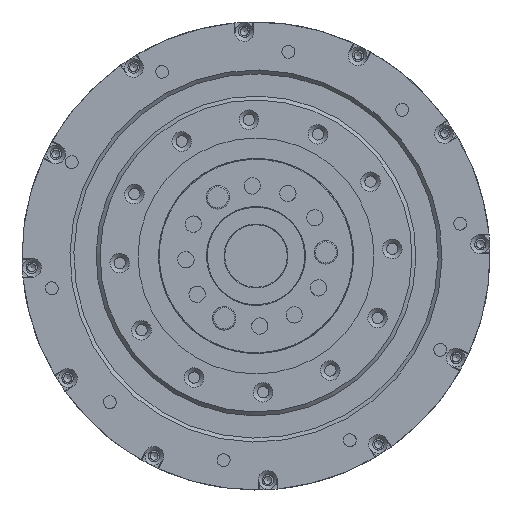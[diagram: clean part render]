
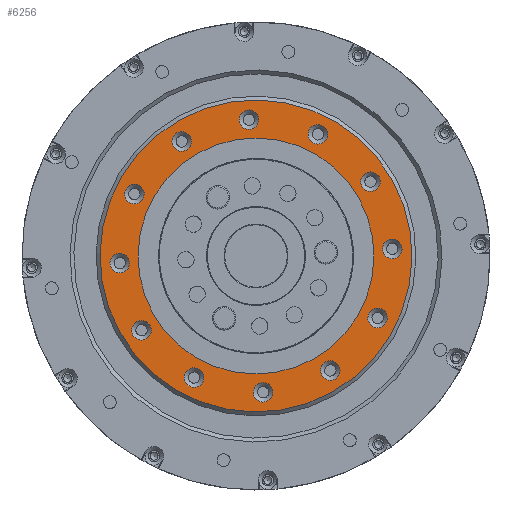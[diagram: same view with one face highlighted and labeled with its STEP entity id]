
A CAD part, left-side view. The second image highlights one B-rep face of the part: STEP entity #6256.
In plain terms, the highlighted planar face has unit normal (-1, 0, 0).
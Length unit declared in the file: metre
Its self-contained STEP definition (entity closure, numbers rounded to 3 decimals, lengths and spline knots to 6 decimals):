
#956=PLANE('',#6801);
#1255=ORIENTED_EDGE('',*,*,#2913,.F.);
#1256=ORIENTED_EDGE('',*,*,#2914,.F.);
#1257=ORIENTED_EDGE('',*,*,#2915,.F.);
#1258=ORIENTED_EDGE('',*,*,#2916,.F.);
#1259=ORIENTED_EDGE('',*,*,#2917,.F.);
#1260=ORIENTED_EDGE('',*,*,#2918,.F.);
#1261=ORIENTED_EDGE('',*,*,#2919,.F.);
#1262=ORIENTED_EDGE('',*,*,#2920,.F.);
#1263=ORIENTED_EDGE('',*,*,#2921,.F.);
#1264=ORIENTED_EDGE('',*,*,#2922,.F.);
#1265=ORIENTED_EDGE('',*,*,#2923,.F.);
#1266=ORIENTED_EDGE('',*,*,#2924,.F.);
#1267=ORIENTED_EDGE('',*,*,#2912,.F.);
#1268=ORIENTED_EDGE('',*,*,#2925,.F.);
#2912=EDGE_CURVE('',#3759,#3759,#4376,.T.);
#2913=EDGE_CURVE('',#3760,#3760,#4377,.T.);
#2914=EDGE_CURVE('',#3761,#3761,#4378,.T.);
#2915=EDGE_CURVE('',#3762,#3762,#4379,.T.);
#2916=EDGE_CURVE('',#3763,#3763,#4380,.T.);
#2917=EDGE_CURVE('',#3764,#3764,#4381,.T.);
#2918=EDGE_CURVE('',#3765,#3765,#4382,.T.);
#2919=EDGE_CURVE('',#3766,#3766,#4383,.T.);
#2920=EDGE_CURVE('',#3767,#3767,#4384,.T.);
#2921=EDGE_CURVE('',#3768,#3768,#4385,.T.);
#2922=EDGE_CURVE('',#3769,#3769,#4386,.T.);
#2923=EDGE_CURVE('',#3770,#3770,#4387,.T.);
#2924=EDGE_CURVE('',#3771,#3771,#4388,.T.);
#2925=EDGE_CURVE('',#3772,#3772,#4389,.T.);
#3759=VERTEX_POINT('',#9962);
#3760=VERTEX_POINT('',#9965);
#3761=VERTEX_POINT('',#9967);
#3762=VERTEX_POINT('',#9969);
#3763=VERTEX_POINT('',#9971);
#3764=VERTEX_POINT('',#9973);
#3765=VERTEX_POINT('',#9975);
#3766=VERTEX_POINT('',#9977);
#3767=VERTEX_POINT('',#9979);
#3768=VERTEX_POINT('',#9981);
#3769=VERTEX_POINT('',#9983);
#3770=VERTEX_POINT('',#9985);
#3771=VERTEX_POINT('',#9987);
#3772=VERTEX_POINT('',#9989);
#4376=CIRCLE('',#6800,0.0025);
#4377=CIRCLE('',#6802,0.03025);
#4378=CIRCLE('',#6803,0.0025);
#4379=CIRCLE('',#6804,0.0025);
#4380=CIRCLE('',#6805,0.0025);
#4381=CIRCLE('',#6806,0.0025);
#4382=CIRCLE('',#6807,0.0025);
#4383=CIRCLE('',#6808,0.0025);
#4384=CIRCLE('',#6809,0.0025);
#4385=CIRCLE('',#6810,0.0025);
#4386=CIRCLE('',#6811,0.0025);
#4387=CIRCLE('',#6812,0.0025);
#4388=CIRCLE('',#6813,0.0025);
#4389=CIRCLE('',#6814,0.04);
#4821=EDGE_LOOP('',(#1255));
#4822=EDGE_LOOP('',(#1256));
#4823=EDGE_LOOP('',(#1257));
#4824=EDGE_LOOP('',(#1258));
#4825=EDGE_LOOP('',(#1259));
#4826=EDGE_LOOP('',(#1260));
#4827=EDGE_LOOP('',(#1261));
#4828=EDGE_LOOP('',(#1262));
#4829=EDGE_LOOP('',(#1263));
#4830=EDGE_LOOP('',(#1264));
#4831=EDGE_LOOP('',(#1265));
#4832=EDGE_LOOP('',(#1266));
#4833=EDGE_LOOP('',(#1267));
#4834=EDGE_LOOP('',(#1268));
#5469=FACE_BOUND('',#4821,.T.);
#5470=FACE_BOUND('',#4822,.T.);
#5471=FACE_BOUND('',#4823,.T.);
#5472=FACE_BOUND('',#4824,.T.);
#5473=FACE_BOUND('',#4825,.T.);
#5474=FACE_BOUND('',#4826,.T.);
#5475=FACE_BOUND('',#4827,.T.);
#5476=FACE_BOUND('',#4828,.T.);
#5477=FACE_BOUND('',#4829,.T.);
#5478=FACE_BOUND('',#4830,.T.);
#5479=FACE_BOUND('',#4831,.T.);
#5480=FACE_BOUND('',#4832,.T.);
#5481=FACE_BOUND('',#4833,.T.);
#5482=FACE_BOUND('',#4834,.T.);
#6256=ADVANCED_FACE('',(#5469,#5470,#5471,#5472,#5473,#5474,#5475,#5476,
#5477,#5478,#5479,#5480,#5481,#5482),#956,.T.);
#6800=AXIS2_PLACEMENT_3D('',#9961,#7843,#7844);
#6801=AXIS2_PLACEMENT_3D('',#9963,#7845,#7846);
#6802=AXIS2_PLACEMENT_3D('',#9964,#7847,#7848);
#6803=AXIS2_PLACEMENT_3D('',#9966,#7849,#7850);
#6804=AXIS2_PLACEMENT_3D('',#9968,#7851,#7852);
#6805=AXIS2_PLACEMENT_3D('',#9970,#7853,#7854);
#6806=AXIS2_PLACEMENT_3D('',#9972,#7855,#7856);
#6807=AXIS2_PLACEMENT_3D('',#9974,#7857,#7858);
#6808=AXIS2_PLACEMENT_3D('',#9976,#7859,#7860);
#6809=AXIS2_PLACEMENT_3D('',#9978,#7861,#7862);
#6810=AXIS2_PLACEMENT_3D('',#9980,#7863,#7864);
#6811=AXIS2_PLACEMENT_3D('',#9982,#7865,#7866);
#6812=AXIS2_PLACEMENT_3D('',#9984,#7867,#7868);
#6813=AXIS2_PLACEMENT_3D('',#9986,#7869,#7870);
#6814=AXIS2_PLACEMENT_3D('',#9988,#7871,#7872);
#7843=DIRECTION('',(-1.,0.,0.));
#7844=DIRECTION('',(0.,0.988,-0.156));
#7845=DIRECTION('',(-1.,0.,0.));
#7846=DIRECTION('',(0.,-0.988,0.156));
#7847=DIRECTION('',(-1.,0.,0.));
#7848=DIRECTION('',(0.,0.988,-0.156));
#7849=DIRECTION('',(-1.,0.,0.));
#7850=DIRECTION('',(0.,-0.777,0.629));
#7851=DIRECTION('',(-1.,0.,0.));
#7852=DIRECTION('',(0.,-0.358,0.934));
#7853=DIRECTION('',(-1.,0.,0.));
#7854=DIRECTION('',(0.,0.156,0.988));
#7855=DIRECTION('',(-1.,0.,0.));
#7856=DIRECTION('',(0.,0.629,0.777));
#7857=DIRECTION('',(-1.,0.,0.));
#7858=DIRECTION('',(0.,0.934,0.358));
#7859=DIRECTION('',(-1.,0.,0.));
#7860=DIRECTION('',(0.,0.988,-0.156));
#7861=DIRECTION('',(-1.,0.,0.));
#7862=DIRECTION('',(0.,0.777,-0.629));
#7863=DIRECTION('',(-1.,0.,0.));
#7864=DIRECTION('',(0.,0.358,-0.934));
#7865=DIRECTION('',(-1.,0.,0.));
#7866=DIRECTION('',(0.,-0.156,-0.988));
#7867=DIRECTION('',(-1.,0.,0.));
#7868=DIRECTION('',(0.,-0.629,-0.777));
#7869=DIRECTION('',(-1.,0.,0.));
#7870=DIRECTION('',(0.,-0.934,-0.358));
#7871=DIRECTION('',(1.,0.,0.));
#7872=DIRECTION('',(0.,0.156,0.988));
#9961=CARTESIAN_POINT('',(0.1065,0.03289,-0.479185));
#9962=CARTESIAN_POINT('',(0.1065,0.035359,-0.479576));
#9963=CARTESIAN_POINT('',(0.1065,0.017,-0.448));
#9964=CARTESIAN_POINT('',(0.1065,0.017,-0.448));
#9965=CARTESIAN_POINT('',(0.1065,0.046878,-0.452732));
#9966=CARTESIAN_POINT('',(0.1065,0.015168,-0.482952));
#9967=CARTESIAN_POINT('',(0.1065,0.013225,-0.481379));
#9968=CARTESIAN_POINT('',(0.1065,-0.002062,-0.477353));
#9969=CARTESIAN_POINT('',(0.1065,-0.002958,-0.47502));
#9970=CARTESIAN_POINT('',(0.1065,-0.014185,-0.46389));
#9971=CARTESIAN_POINT('',(0.1065,-0.013794,-0.46142));
#9972=CARTESIAN_POINT('',(0.1065,-0.017952,-0.446168));
#9973=CARTESIAN_POINT('',(0.1065,-0.016379,-0.444225));
#9974=CARTESIAN_POINT('',(0.1065,-0.012353,-0.428938));
#9975=CARTESIAN_POINT('',(0.1065,-0.01002,-0.428042));
#9976=CARTESIAN_POINT('',(0.1065,0.00111,-0.416815));
#9977=CARTESIAN_POINT('',(0.1065,0.00358,-0.417206));
#9978=CARTESIAN_POINT('',(0.1065,0.018832,-0.413048));
#9979=CARTESIAN_POINT('',(0.1065,0.020775,-0.414621));
#9980=CARTESIAN_POINT('',(0.1065,0.036062,-0.418647));
#9981=CARTESIAN_POINT('',(0.1065,0.036958,-0.42098));
#9982=CARTESIAN_POINT('',(0.1065,0.048185,-0.43211));
#9983=CARTESIAN_POINT('',(0.1065,0.047794,-0.43458));
#9984=CARTESIAN_POINT('',(0.1065,0.051952,-0.449832));
#9985=CARTESIAN_POINT('',(0.1065,0.050379,-0.451775));
#9986=CARTESIAN_POINT('',(0.1065,0.046353,-0.467062));
#9987=CARTESIAN_POINT('',(0.1065,0.04402,-0.467958));
#9988=CARTESIAN_POINT('',(0.1065,0.017,-0.448));
#9989=CARTESIAN_POINT('',(0.1065,0.023257,-0.408492));
